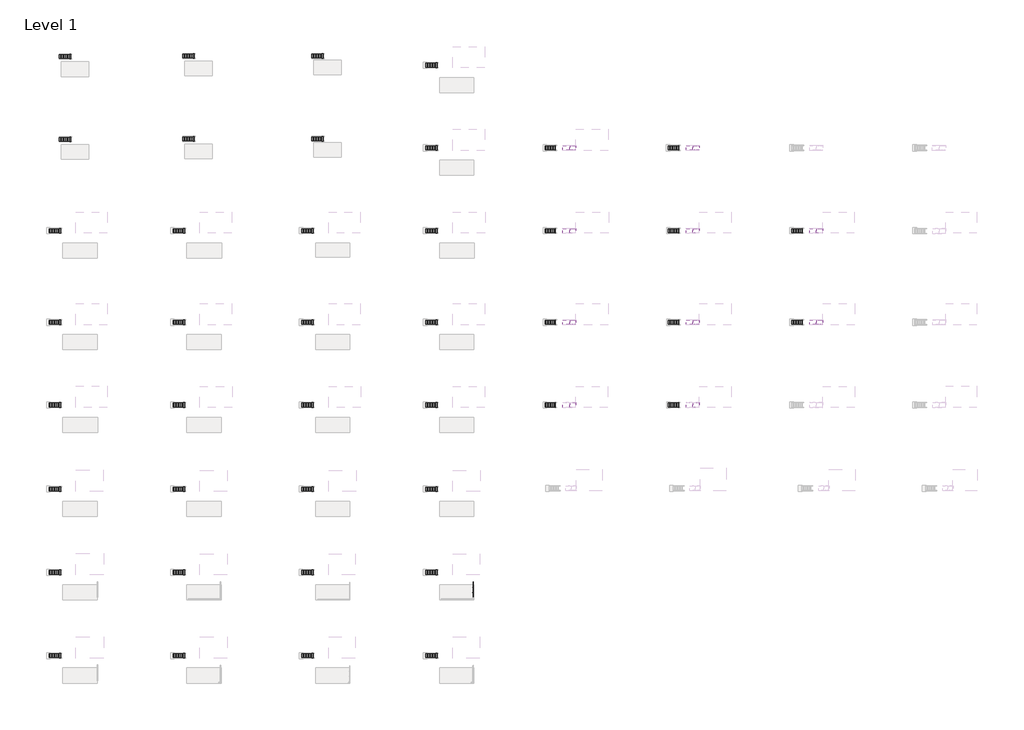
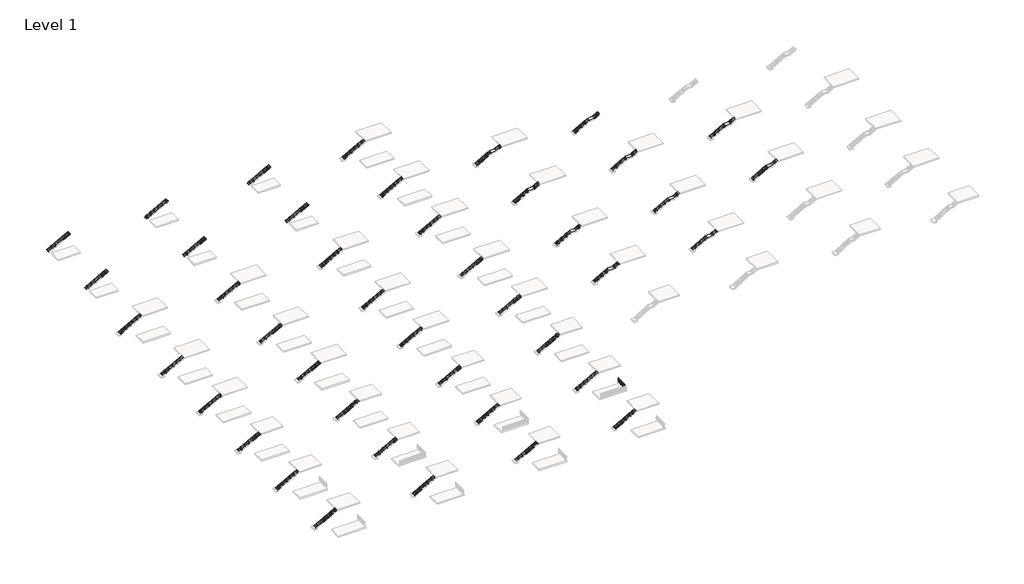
# One storey, part 18 of 21: 52 stair flights, 10 slabs, 1 railing.
"""IFC4 building model written with IfcOpenShell, lengths in millimetres."""

from ifc_helpers import new_model, si_unit, point, frame, frame_2d, origin, origin_with_axes, place, context, project, spatial, polyline, circle_curve, ellipse_curve, trimmed, segment, composite_curve, outline, extrude, transform, mapped, element, save
from ifc_brep_helpers import plane_surface, cylinder_surface, revolved_surface, advanced_brep
from components import non_monolithic_landing_68df8a4a, non_monolithic_landing_622c76ce, non_monolithic_landing_eebf8293, non_monolithic_landing_572fa811, non_monolithic_landing_1bac0f6f, non_monolithic_landing_00edb4bf, non_monolithic_landing_f2cff6cf, non_monolithic_landing_93eedf80, non_monolithic_landing_f9f2de40, non_monolithic_landing_677d5420, stair_flight_21dbc130, stair_flight_cde1ea60, stair_flight_880be68a, stair_flight_54c0e317, stair_flight_4c12d816, stair_flight_4dab80b4, stair_flight_5fd97676, stair_flight_d89cc62d, stair_flight_032d6450, stair_flight_6f00a75b, stair_flight_b4fc23ee, stair_flight_1a475ef1, stair_flight_504623b8, stair_flight_a9e391cd, stair_flight_ea38ce52, stair_flight_579046b4, stair_flight_a4d97b63, stair_flight_d66cefcb, stair_flight_59b35711, stair_flight_d6851f9f, stair_flight_cf73235f, stair_flight_5fa4b5d9, stair_flight_0c7f6dce, stair_flight_51c20a19, stair_flight_4c7bdb1a, stair_flight_e897e28c, stair_flight_97da3e8a, stair_flight_49c0e360, stair_flight_cca27561, stair_flight_1eaf134b, stair_flight_70ecf729, stair_flight_92419e0c, stair_flight_28026eea, stair_flight_2d9f9aa4, stair_flight_6e80d798, stair_flight_51f59bb7, stair_flight_48e1a564, stair_flight_d0af4276, stair_flight_f16808b1, stair_flight_94b45384, stair_flight_3adfad0a, stair_flight_d7e3c5c4, stair_flight_fb633825, stair_flight_e81d561a, stair_flight_54aec304, stair_flight_acb79ccf, stair_flight_84b26165, stair_flight_38fbb28f, stair_flight_65d056e7, stair_flight_d85fa086, stair_flight_746c074b, stair_flight_32618580

model = new_model("IFC4")

# Units and contexts
model_context = context("Model", 3, world=origin())
ifc_project = project(units=[si_unit("LENGTHUNIT", "METRE", prefix="MILLI")], contexts=[model_context])

# Site, building, storey
site = spatial("IfcSite", under=ifc_project)
building = spatial("IfcBuilding", under=site)
storey = spatial("IfcBuildingStorey", under=building, Name="Level 1", Elevation=0.0)

# Railing
placement = place(None, origin())
element("IfcRailing", 1, ObjectType="VIVA-CIRCA-Cable-Core Mount-Straight", at=placement, inside=storey, context=model_context, shape_type="SolidModel", body=[
    advanced_brep(
    [(69909.4592968, -56752.6334719, 1054.1), (69858.6592968, -56752.6334719, 1054.1), (69909.4592968, -53704.6334719, 1054.1), (69858.6592968, -53704.6334719, 1054.1), (69909.4592968, -53603.0334719, 1054.1), (69858.6592968, -53603.0334719, 1054.1)],
    [
        (0, 1, circle_curve(frame((69884.0592968, -56752.6334719, 1054.1), z_axis=(0.0, -1.0, 0.0), x_axis=(-1.0, 0.0, 0.0)), 25.4)),
        (1, 0, circle_curve(frame((69884.0592968, -56752.6334719, 1054.1), z_axis=(0.0, -1.0, 0.0), x_axis=(-1.0, 0.0, 0.0)), 25.4)),
        (0, 2),
        (2, 3, circle_curve(frame((69884.0592968, -53704.6334719, 1054.1), z_axis=(0.0, -1.0, 0.0), x_axis=(-1.0, 0.0, 0.0)), 25.4)),
        (3, 1),
        (3, 2, circle_curve(frame((69884.0592968, -53704.6334719, 1054.1), z_axis=(0.0, -1.0, 0.0), x_axis=(-1.0, 0.0, 0.0)), 25.4)),
        (4, 5, circle_curve(frame((69884.0592968, -53603.0334719, 1054.1), z_axis=(0.0, 1.0, 0.0), x_axis=(-1.0, 0.0, 0.0)), 25.4)),
        (5, 4, circle_curve(frame((69884.0592968, -53603.0334719, 1054.1), z_axis=(0.0, 1.0, 0.0), x_axis=(-1.0, 0.0, 0.0)), 25.4)),
        (2, 4),
        (5, 3),
    ],
    [
        plane_surface(frame((69884.0592968, -56752.6334719, 1079.5), z_axis=(0.0, -1.0, 0.0), x_axis=(0.0, 0.0, 1.0))),
        cylinder_surface(frame((69884.0592968, -56752.6334719, 1054.1), z_axis=(0.0, -1.0, 0.0), x_axis=(-1.0, 0.0, 0.0)), 25.4),
        plane_surface(frame((69884.0592968, -53603.0334719, 1079.5), z_axis=(0.0, 1.0, 0.0), x_axis=(0.0, 0.0, 1.0))),
        cylinder_surface(frame((69884.0592968, -53704.6334719, 1054.1), z_axis=(0.0, -1.0, 0.0), x_axis=(-1.0, 0.0, 0.0)), 25.4),
    ],
    [
        (0, [[1, 2]]),
        (1, [[-1, 3, 4, 5]]),
        (1, [[-2, -5, 6, -3]]),
        (2, [[7, 8]]),
        (3, [[-4, 9, -8, 10]]),
        (3, [[-6, -10, -7, -9]]),
    ],
),
    extrude(outline(composite_curve([segment(trimmed(circle_curve(frame_2d((937.4124, 69884.0592968)), 2.3876), [point((937.4124, 69881.6716968))], [point((937.4124, 69886.4468968))], False, "CARTESIAN"), True, "CONTINUOUS"), segment(trimmed(circle_curve(frame_2d((937.4124, 69884.0592968)), 2.3876), [point((937.4124, 69886.4468968))], [point((937.4124, 69881.6716968))], False, "CARTESIAN"), True, "CONTINUOUS")], self_intersect=False)), frame((0.0, -56752.6334719, 0.0), z_axis=(0.0, 1.0, 0.0), x_axis=(0.0, 0.0, 1.0)), (0.0, 0.0, 1.0), 3048.0),
    extrude(outline(composite_curve([segment(trimmed(circle_curve(frame_2d((854.8624, 69884.0592968)), 2.3876), [point((854.8624, 69881.6716968))], [point((854.8624, 69886.4468968))], False, "CARTESIAN"), True, "CONTINUOUS"), segment(trimmed(circle_curve(frame_2d((854.8624, 69884.0592968)), 2.3876), [point((854.8624, 69886.4468968))], [point((854.8624, 69881.6716968))], False, "CARTESIAN"), True, "CONTINUOUS")], self_intersect=False)), frame((0.0, -56752.6334719, 0.0), z_axis=(0.0, 1.0, 0.0), x_axis=(0.0, 0.0, 1.0)), (0.0, 0.0, 1.0), 3048.0),
    extrude(outline(composite_curve([segment(trimmed(circle_curve(frame_2d((772.3124, 69884.0592968)), 2.3876), [point((772.3124, 69881.6716968))], [point((772.3124, 69886.4468968))], False, "CARTESIAN"), True, "CONTINUOUS"), segment(trimmed(circle_curve(frame_2d((772.3124, 69884.0592968)), 2.3876), [point((772.3124, 69886.4468968))], [point((772.3124, 69881.6716968))], False, "CARTESIAN"), True, "CONTINUOUS")], self_intersect=False)), frame((0.0, -56752.6334719, 0.0), z_axis=(0.0, 1.0, 0.0), x_axis=(0.0, 0.0, 1.0)), (0.0, 0.0, 1.0), 3048.0),
    extrude(outline(composite_curve([segment(trimmed(circle_curve(frame_2d((689.7624, 69884.0592968)), 2.3876), [point((689.7624, 69881.6716968))], [point((689.7624, 69886.4468968))], False, "CARTESIAN"), True, "CONTINUOUS"), segment(trimmed(circle_curve(frame_2d((689.7624, 69884.0592968)), 2.3876), [point((689.7624, 69886.4468968))], [point((689.7624, 69881.6716968))], False, "CARTESIAN"), True, "CONTINUOUS")], self_intersect=False)), frame((0.0, -56752.6334719, 0.0), z_axis=(0.0, 1.0, 0.0), x_axis=(0.0, 0.0, 1.0)), (0.0, 0.0, 1.0), 3048.0),
    extrude(outline(composite_curve([segment(trimmed(circle_curve(frame_2d((607.2124, 69884.0592968)), 2.3876), [point((607.2124, 69881.6716968))], [point((607.2124, 69886.4468968))], False, "CARTESIAN"), True, "CONTINUOUS"), segment(trimmed(circle_curve(frame_2d((607.2124, 69884.0592968)), 2.3876), [point((607.2124, 69886.4468968))], [point((607.2124, 69881.6716968))], False, "CARTESIAN"), True, "CONTINUOUS")], self_intersect=False)), frame((0.0, -56752.6334719, 0.0), z_axis=(0.0, 1.0, 0.0), x_axis=(0.0, 0.0, 1.0)), (0.0, 0.0, 1.0), 3048.0),
    extrude(outline(composite_curve([segment(trimmed(circle_curve(frame_2d((524.6624, 69884.0592968)), 2.3876), [point((524.6624, 69881.6716968))], [point((524.6624, 69886.4468968))], False, "CARTESIAN"), True, "CONTINUOUS"), segment(trimmed(circle_curve(frame_2d((524.6624, 69884.0592968)), 2.3876), [point((524.6624, 69886.4468968))], [point((524.6624, 69881.6716968))], False, "CARTESIAN"), True, "CONTINUOUS")], self_intersect=False)), frame((0.0, -56752.6334719, 0.0), z_axis=(0.0, 1.0, 0.0), x_axis=(0.0, 0.0, 1.0)), (0.0, 0.0, 1.0), 3048.0),
    extrude(outline(composite_curve([segment(trimmed(circle_curve(frame_2d((442.1124, 69884.0592968)), 2.3876), [point((442.1124, 69881.6716968))], [point((442.1124, 69886.4468968))], False, "CARTESIAN"), True, "CONTINUOUS"), segment(trimmed(circle_curve(frame_2d((442.1124, 69884.0592968)), 2.3876), [point((442.1124, 69886.4468968))], [point((442.1124, 69881.6716968))], False, "CARTESIAN"), True, "CONTINUOUS")], self_intersect=False)), frame((0.0, -56752.6334719, 0.0), z_axis=(0.0, 1.0, 0.0), x_axis=(0.0, 0.0, 1.0)), (0.0, 0.0, 1.0), 3048.0),
    extrude(outline(composite_curve([segment(trimmed(circle_curve(frame_2d((359.5624, 69884.0592968)), 2.3876), [point((359.5624, 69881.6716968))], [point((359.5624, 69886.4468968))], False, "CARTESIAN"), True, "CONTINUOUS"), segment(trimmed(circle_curve(frame_2d((359.5624, 69884.0592968)), 2.3876), [point((359.5624, 69886.4468968))], [point((359.5624, 69881.6716968))], False, "CARTESIAN"), True, "CONTINUOUS")], self_intersect=False)), frame((0.0, -56752.6334719, 0.0), z_axis=(0.0, 1.0, 0.0), x_axis=(0.0, 0.0, 1.0)), (0.0, 0.0, 1.0), 3048.0),
    extrude(outline(composite_curve([segment(trimmed(circle_curve(frame_2d((277.0124, 69884.0592968)), 2.3876), [point((277.0124, 69881.6716968))], [point((277.0124, 69886.4468968))], False, "CARTESIAN"), True, "CONTINUOUS"), segment(trimmed(circle_curve(frame_2d((277.0124, 69884.0592968)), 2.3876), [point((277.0124, 69886.4468968))], [point((277.0124, 69881.6716968))], False, "CARTESIAN"), True, "CONTINUOUS")], self_intersect=False)), frame((0.0, -56752.6334719, 0.0), z_axis=(0.0, 1.0, 0.0), x_axis=(0.0, 0.0, 1.0)), (0.0, 0.0, 1.0), 3048.0),
    extrude(outline(composite_curve([segment(trimmed(circle_curve(frame_2d((194.4624, 69884.0592968)), 2.3876), [point((194.4624, 69881.6716968))], [point((194.4624, 69886.4468968))], False, "CARTESIAN"), True, "CONTINUOUS"), segment(trimmed(circle_curve(frame_2d((194.4624, 69884.0592968)), 2.3876), [point((194.4624, 69886.4468968))], [point((194.4624, 69881.6716968))], False, "CARTESIAN"), True, "CONTINUOUS")], self_intersect=False)), frame((0.0, -56752.6334719, 0.0), z_axis=(0.0, 1.0, 0.0), x_axis=(0.0, 0.0, 1.0)), (0.0, 0.0, 1.0), 3048.0),
    extrude(outline(composite_curve([segment(trimmed(circle_curve(frame_2d((111.9124, 69884.0592968)), 2.3876), [point((111.9124, 69881.6716968))], [point((111.9124, 69886.4468968))], False, "CARTESIAN"), True, "CONTINUOUS"), segment(trimmed(circle_curve(frame_2d((111.9124, 69884.0592968)), 2.3876), [point((111.9124, 69886.4468968))], [point((111.9124, 69881.6716968))], False, "CARTESIAN"), True, "CONTINUOUS")], self_intersect=False)), frame((0.0, -56752.6334719, 0.0), z_axis=(0.0, 1.0, 0.0), x_axis=(0.0, 0.0, 1.0)), (0.0, 0.0, 1.0), 3048.0),
    extrude(outline(composite_curve([segment(trimmed(circle_curve(frame_2d((69884.0592968, -54720.2365969)), 63.5), [point((69947.5592968, -54720.2365969))], [point((69820.5592968, -54720.2365969))], False, "CARTESIAN"), True, "CONTINUOUS"), segment(trimmed(circle_curve(frame_2d((69884.0592968, -54720.2365969)), 63.5), [point((69820.5592968, -54720.2365969))], [point((69947.5592968, -54720.2365969))], False, "CARTESIAN"), True, "CONTINUOUS")], self_intersect=False)), origin_with_axes(), (0.0, 0.0, 1.0), 25.4),
    extrude(outline(composite_curve([segment(trimmed(circle_curve(frame_2d((1055.4254922, 69883.9625684)), 25.4345159), [point((1033.3106679, 69896.5263713))], [point((1033.2157471, 69871.5673346))], True, "CARTESIAN"), True, "CONTINUOUS"), segment(trimmed(circle_curve(frame_2d((1030.7132623, 69870.3226815)), 2.7949225), [point((1033.2157471, 69871.5673346))], [point((1028.3406769, 69868.8453764))], False, "CARTESIAN"), True, "CONTINUOUS"), segment(trimmed(circle_curve(frame_2d((1056.1881188, 69884.0960315)), 31.75), [point((1028.3406769, 69868.8453764))], [point((1028.9214354, 69900.3622687))], False, "CARTESIAN"), True, "CONTINUOUS"), segment(trimmed(circle_curve(frame_2d((1030.7923545, 69898.073929)), 2.9558141), [point((1028.9214354, 69900.3622687))], [point((1033.3106679, 69896.5263713))], False, "CARTESIAN"), True, "CONTINUOUS")], self_intersect=False)), frame((0.0, -54765.4739969, 0.0), z_axis=(0.0, 1.0, 0.0), x_axis=(0.0, 0.0, 1.0)), (0.0, 0.0, 1.0), 90.4748),
    extrude(outline(composite_curve([segment(trimmed(circle_curve(frame_2d((-54693.168682, 1010.282776)), 14.3679149), [point((-54693.168682, 1024.6506908))], [point((-54707.5365969, 1010.282776))], True, "CARTESIAN"), True, "CONTINUOUS"), segment(trimmed(circle_curve(frame_2d((-54720.2365969, 1010.282776)), 12.7), [point((-54707.5365969, 1010.282776))], [point((-54732.9365969, 1010.282776))], False, "CARTESIAN"), True, "CONTINUOUS"), segment(trimmed(circle_curve(frame_2d((-54747.3045117, 1010.282776)), 14.3679149), [point((-54732.9365969, 1010.282776))], [point((-54747.3045117, 1024.6506908))], True, "CARTESIAN"), True, "CONTINUOUS"), segment(polyline([(-54747.3045117, 1024.6506908), (-54693.168682, 1024.6506908)]), True, "CONTINUOUS")], self_intersect=False)), frame((69881.5192968, 0.0, 0.0), z_axis=(1.0, 0.0, 0.0), x_axis=(0.0, 1.0, 0.0)), (0.0, 0.0, 1.0), 5.08),
    advanced_brep(
    [(69909.4586946, -54720.2365969, 941.1347854), (69858.659899, -54720.2365969, 941.1347854), (69858.659899, -54720.2365969, -88.9), (69909.4586946, -54720.2365969, -88.9), (69896.7972653, -54720.2365969, 979.3486202), (69871.3213282, -54720.2365969, 979.3486202), (69896.7972653, -54720.2365969, 1008.5779599), (69871.3213282, -54720.2365969, 1008.5779599), (69884.0592968, -54720.2365969, 1015.238668), (69884.0592968, -54720.2365969, -88.9)],
    [
        (0, 1, circle_curve(frame((69884.0592968, -54720.2365969, 941.1347854), z_axis=(0.0, 0.0, -1.0), x_axis=(-1.0, 0.0, 0.0)), 25.3993978)),
        (1, 2),
        (2, 3, circle_curve(frame((69884.0592968, -54720.2365969, -88.9), z_axis=(0.0, 0.0, 1.0), x_axis=(-1.0, 0.0, 0.0)), 25.3993978)),
        (3, 0),
        (1, 0, circle_curve(frame((69884.0592968, -54720.2365969, 941.1347854), z_axis=(0.0, 0.0, -1.0), x_axis=(-1.0, 0.0, 0.0)), 25.3993978)),
        (3, 2, circle_curve(frame((69884.0592968, -54720.2365969, -88.9), z_axis=(0.0, 0.0, 1.0), x_axis=(-1.0, 0.0, 0.0)), 25.3993978)),
        (4, 5, circle_curve(frame((69884.0592968, -54720.2365969, 979.3486202), z_axis=(0.0, 0.0, -1.0), x_axis=(-1.0, 0.0, 0.0)), 12.7379685)),
        (5, 1, circle_curve(frame((69807.3234599, -54720.2365969, 979.3486202), z_axis=(0.0, 1.0, 0.0), x_axis=(-1.0, 0.0, 0.0)), 63.9978683)),
        (0, 4, circle_curve(frame((69960.7951336, -54720.2365969, 979.3486202), z_axis=(0.0, 1.0, 0.0), x_axis=(1.0, 0.0, 0.0)), 63.9978683)),
        (5, 4, circle_curve(frame((69884.0592968, -54720.2365969, 979.3486202), z_axis=(0.0, 0.0, -1.0), x_axis=(-1.0, 0.0, 0.0)), 12.7379685)),
        (6, 7, circle_curve(frame((69884.0592968, -54720.2365969, 1008.5779599), z_axis=(0.0, 0.0, -1.0), x_axis=(-1.0, 0.0, 0.0)), 12.7379685)),
        (7, 5),
        (4, 6),
        (7, 6, circle_curve(frame((69884.0592968, -54720.2365969, 1008.5779599), z_axis=(0.0, 0.0, -1.0), x_axis=(-1.0, 0.0, 0.0)), 12.7379685)),
        (8, 7, circle_curve(frame((69884.0592968, -54720.2365969, 999.7282394), z_axis=(0.0, -1.0, 0.0), x_axis=(-1.0, 0.0, 0.0)), 15.5104286)),
        (6, 8, circle_curve(frame((69884.0592968, -54720.2365969, 999.7282394), z_axis=(0.0, -1.0, 0.0), x_axis=(1.0, 0.0, 0.0)), 15.5104286)),
        (2, 9),
        (9, 3),
    ],
    [
        cylinder_surface(frame((69884.0592968, -54720.2365969, 1104.9), z_axis=(0.0, 0.0, 1.0), x_axis=(-1.0, 0.0, 0.0)), 25.3993978),
        revolved_surface(trimmed(ellipse_curve(frame((69807.3234599, -54720.2365969, 979.3486202), z_axis=(0.0, -1.0, 0.0), x_axis=(-1.0, 0.0, 0.0)), 63.9978683, 63.9978683), [point((69858.659899, -54720.2365969, 941.1347854))], [point((69871.3213282, -54720.2365969, 979.3486202))], True, "CARTESIAN"), (69884.0592968, -54720.2365969, 1104.9), (0.0, 0.0, 1.0)),
        cylinder_surface(frame((69884.0592968, -54720.2365969, 1104.9), z_axis=(0.0, 0.0, 1.0), x_axis=(-1.0, 0.0, 0.0)), 12.7379685),
        revolved_surface(trimmed(ellipse_curve(frame((69884.0592968, -54720.2365969, 999.7282394), z_axis=(0.0, 1.0, 0.0), x_axis=(-1.0, 0.0, 0.0)), 15.5104286, 15.5104286), [point((69871.3213282, -54720.2365969, 1008.5779599))], [point((69884.0592968, -54720.2365969, 1015.238668))], True, "CARTESIAN"), (69884.0592968, -54720.2365969, 1104.9), (0.0, 0.0, 1.0)),
        plane_surface(frame((69884.0592968, -54720.2365969, -88.9), z_axis=(0.0, 0.0, -1.0), x_axis=(-1.0, 0.0, 0.0))),
    ],
    [
        (0, [[1, 2, 3, 4]]),
        (0, [[5, -4, 6, -2]]),
        (1, [[7, 8, -1, 9]]),
        (1, [[10, -9, -5, -8]]),
        (2, [[11, 12, -7, 13]]),
        (2, [[14, -13, -10, -12]]),
        (3, [[15, -11, 16]]),
        (3, [[-16, -14, -15]]),
        (4, [[-3, 17, 18]]),
        (4, [[-6, -18, -17]]),
    ],
),
    extrude(outline(composite_curve([segment(trimmed(circle_curve(frame_2d((69884.0592968, -55736.2365969)), 63.5), [point((69947.5592968, -55736.2365969))], [point((69820.5592968, -55736.2365969))], False, "CARTESIAN"), True, "CONTINUOUS"), segment(trimmed(circle_curve(frame_2d((69884.0592968, -55736.2365969)), 63.5), [point((69820.5592968, -55736.2365969))], [point((69947.5592968, -55736.2365969))], False, "CARTESIAN"), True, "CONTINUOUS")], self_intersect=False)), origin_with_axes(), (0.0, 0.0, 1.0), 25.4),
    extrude(outline(composite_curve([segment(trimmed(circle_curve(frame_2d((1055.4254922, 69883.9625684)), 25.4345159), [point((1033.3106679, 69896.5263713))], [point((1033.2157471, 69871.5673346))], True, "CARTESIAN"), True, "CONTINUOUS"), segment(trimmed(circle_curve(frame_2d((1030.7132623, 69870.3226815)), 2.7949225), [point((1033.2157471, 69871.5673346))], [point((1028.3406769, 69868.8453764))], False, "CARTESIAN"), True, "CONTINUOUS"), segment(trimmed(circle_curve(frame_2d((1056.1881188, 69884.0960315)), 31.75), [point((1028.3406769, 69868.8453764))], [point((1028.9214354, 69900.3622687))], False, "CARTESIAN"), True, "CONTINUOUS"), segment(trimmed(circle_curve(frame_2d((1030.7923545, 69898.073929)), 2.9558141), [point((1028.9214354, 69900.3622687))], [point((1033.3106679, 69896.5263713))], False, "CARTESIAN"), True, "CONTINUOUS")], self_intersect=False)), frame((0.0, -55781.4739969, 0.0), z_axis=(0.0, 1.0, 0.0), x_axis=(0.0, 0.0, 1.0)), (0.0, 0.0, 1.0), 90.4748),
    extrude(outline(composite_curve([segment(trimmed(circle_curve(frame_2d((-55709.168682, 1010.282776)), 14.3679149), [point((-55709.168682, 1024.6506908))], [point((-55723.5365969, 1010.282776))], True, "CARTESIAN"), True, "CONTINUOUS"), segment(trimmed(circle_curve(frame_2d((-55736.2365969, 1010.282776)), 12.7), [point((-55723.5365969, 1010.282776))], [point((-55748.9365969, 1010.282776))], False, "CARTESIAN"), True, "CONTINUOUS"), segment(trimmed(circle_curve(frame_2d((-55763.3045117, 1010.282776)), 14.3679149), [point((-55748.9365969, 1010.282776))], [point((-55763.3045117, 1024.6506908))], True, "CARTESIAN"), True, "CONTINUOUS"), segment(polyline([(-55763.3045117, 1024.6506908), (-55709.168682, 1024.6506908)]), True, "CONTINUOUS")], self_intersect=False)), frame((69881.5192968, 0.0, 0.0), z_axis=(1.0, 0.0, 0.0), x_axis=(0.0, 1.0, 0.0)), (0.0, 0.0, 1.0), 5.08),
    advanced_brep(
    [(69909.4586946, -55736.2365969, 941.1347854), (69858.659899, -55736.2365969, 941.1347854), (69858.659899, -55736.2365969, -88.9), (69909.4586946, -55736.2365969, -88.9), (69896.7972653, -55736.2365969, 979.3486202), (69871.3213282, -55736.2365969, 979.3486202), (69896.7972653, -55736.2365969, 1008.5779599), (69871.3213282, -55736.2365969, 1008.5779599), (69884.0592968, -55736.2365969, 1015.238668), (69884.0592968, -55736.2365969, -88.9)],
    [
        (0, 1, circle_curve(frame((69884.0592968, -55736.2365969, 941.1347854), z_axis=(0.0, 0.0, -1.0), x_axis=(-1.0, 0.0, 0.0)), 25.3993978)),
        (1, 2),
        (2, 3, circle_curve(frame((69884.0592968, -55736.2365969, -88.9), z_axis=(0.0, 0.0, 1.0), x_axis=(-1.0, 0.0, 0.0)), 25.3993978)),
        (3, 0),
        (1, 0, circle_curve(frame((69884.0592968, -55736.2365969, 941.1347854), z_axis=(0.0, 0.0, -1.0), x_axis=(-1.0, 0.0, 0.0)), 25.3993978)),
        (3, 2, circle_curve(frame((69884.0592968, -55736.2365969, -88.9), z_axis=(0.0, 0.0, 1.0), x_axis=(-1.0, 0.0, 0.0)), 25.3993978)),
        (4, 5, circle_curve(frame((69884.0592968, -55736.2365969, 979.3486202), z_axis=(0.0, 0.0, -1.0), x_axis=(-1.0, 0.0, 0.0)), 12.7379685)),
        (5, 1, circle_curve(frame((69807.3234599, -55736.2365969, 979.3486202), z_axis=(0.0, 1.0, 0.0), x_axis=(-1.0, 0.0, 0.0)), 63.9978683)),
        (0, 4, circle_curve(frame((69960.7951336, -55736.2365969, 979.3486202), z_axis=(0.0, 1.0, 0.0), x_axis=(1.0, 0.0, 0.0)), 63.9978683)),
        (5, 4, circle_curve(frame((69884.0592968, -55736.2365969, 979.3486202), z_axis=(0.0, 0.0, -1.0), x_axis=(-1.0, 0.0, 0.0)), 12.7379685)),
        (6, 7, circle_curve(frame((69884.0592968, -55736.2365969, 1008.5779599), z_axis=(0.0, 0.0, -1.0), x_axis=(-1.0, 0.0, 0.0)), 12.7379685)),
        (7, 5),
        (4, 6),
        (7, 6, circle_curve(frame((69884.0592968, -55736.2365969, 1008.5779599), z_axis=(0.0, 0.0, -1.0), x_axis=(-1.0, 0.0, 0.0)), 12.7379685)),
        (8, 7, circle_curve(frame((69884.0592968, -55736.2365969, 999.7282394), z_axis=(0.0, -1.0, 0.0), x_axis=(-1.0, 0.0, 0.0)), 15.5104286)),
        (6, 8, circle_curve(frame((69884.0592968, -55736.2365969, 999.7282394), z_axis=(0.0, -1.0, 0.0), x_axis=(1.0, 0.0, 0.0)), 15.5104286)),
        (2, 9),
        (9, 3),
    ],
    [
        cylinder_surface(frame((69884.0592968, -55736.2365969, 1104.9), z_axis=(0.0, 0.0, 1.0), x_axis=(-1.0, 0.0, 0.0)), 25.3993978),
        revolved_surface(trimmed(ellipse_curve(frame((69807.3234599, -55736.2365969, 979.3486202), z_axis=(0.0, -1.0, 0.0), x_axis=(-1.0, 0.0, 0.0)), 63.9978683, 63.9978683), [point((69858.659899, -55736.2365969, 941.1347854))], [point((69871.3213282, -55736.2365969, 979.3486202))], True, "CARTESIAN"), (69884.0592968, -55736.2365969, 1104.9), (0.0, 0.0, 1.0)),
        cylinder_surface(frame((69884.0592968, -55736.2365969, 1104.9), z_axis=(0.0, 0.0, 1.0), x_axis=(-1.0, 0.0, 0.0)), 12.7379685),
        revolved_surface(trimmed(ellipse_curve(frame((69884.0592968, -55736.2365969, 999.7282394), z_axis=(0.0, 1.0, 0.0), x_axis=(-1.0, 0.0, 0.0)), 15.5104286, 15.5104286), [point((69871.3213282, -55736.2365969, 1008.5779599))], [point((69884.0592968, -55736.2365969, 1015.238668))], True, "CARTESIAN"), (69884.0592968, -55736.2365969, 1104.9), (0.0, 0.0, 1.0)),
        plane_surface(frame((69884.0592968, -55736.2365969, -88.9), z_axis=(0.0, 0.0, -1.0), x_axis=(-1.0, 0.0, 0.0))),
    ],
    [
        (0, [[1, 2, 3, 4]]),
        (0, [[5, -4, 6, -2]]),
        (1, [[7, 8, -1, 9]]),
        (1, [[10, -9, -5, -8]]),
        (2, [[11, 12, -7, 13]]),
        (2, [[14, -13, -10, -12]]),
        (3, [[15, -11, 16]]),
        (3, [[-16, -14, -15]]),
        (4, [[-3, 17, 18]]),
        (4, [[-6, -18, -17]]),
    ],
),
])

# Slabs
non_monolithic_landing_shape = non_monolithic_landing_68df8a4a(model_context)
element("IfcSlab", 2, ObjectType="Non-Monolithic Landing", at=placement, inside=storey, context=model_context, shape_type="MappedRepresentation", body=[
    mapped(non_monolithic_landing_shape, transform((0.0, 0.0, 0.0), x_axis=(1.0, 0.0, 0.0), y_axis=(0.0, 1.0, 0.0), z_axis=(0.0, 0.0, 1.0))),
])
non_monolithic_landing_2_shape = non_monolithic_landing_622c76ce(model_context)
element("IfcSlab", 3, ObjectType="Non-Monolithic Landing", at=placement, inside=storey, context=model_context, shape_type="MappedRepresentation", body=[
    mapped(non_monolithic_landing_2_shape, transform((0.0, 0.0, 0.0), x_axis=(1.0, 0.0, 0.0), y_axis=(0.0, 1.0, 0.0), z_axis=(0.0, 0.0, 1.0))),
])
non_monolithic_landing_3_shape = non_monolithic_landing_eebf8293(model_context)
element("IfcSlab", 4, ObjectType="Non-Monolithic Landing", at=placement, inside=storey, context=model_context, shape_type="MappedRepresentation", body=[
    mapped(non_monolithic_landing_3_shape, transform((0.0, 0.0, 0.0), x_axis=(1.0, 0.0, 0.0), y_axis=(0.0, 1.0, 0.0), z_axis=(0.0, 0.0, 1.0))),
])
non_monolithic_landing_4_shape = non_monolithic_landing_572fa811(model_context)
element("IfcSlab", 5, ObjectType="Non-Monolithic Landing", at=placement, inside=storey, context=model_context, shape_type="MappedRepresentation", body=[
    mapped(non_monolithic_landing_4_shape, transform((0.0, 0.0, 0.0), x_axis=(1.0, 0.0, 0.0), y_axis=(0.0, 1.0, 0.0), z_axis=(0.0, 0.0, 1.0))),
])
non_monolithic_landing_5_shape = non_monolithic_landing_1bac0f6f(model_context)
element("IfcSlab", 6, ObjectType="Non-Monolithic Landing", at=placement, inside=storey, context=model_context, shape_type="MappedRepresentation", body=[
    mapped(non_monolithic_landing_5_shape, transform((0.0, 0.0, 0.0), x_axis=(1.0, 0.0, 0.0), y_axis=(0.0, 1.0, 0.0), z_axis=(0.0, 0.0, 1.0))),
])
non_monolithic_landing_6_shape = non_monolithic_landing_00edb4bf(model_context)
element("IfcSlab", 7, ObjectType="Non-Monolithic Landing", at=placement, inside=storey, context=model_context, shape_type="MappedRepresentation", body=[
    mapped(non_monolithic_landing_6_shape, transform((0.0, 0.0, 0.0), x_axis=(1.0, 0.0, 0.0), y_axis=(0.0, 1.0, 0.0), z_axis=(0.0, 0.0, 1.0))),
])
non_monolithic_landing_7_shape = non_monolithic_landing_f2cff6cf(model_context)
element("IfcSlab", 8, ObjectType="Non-Monolithic Landing", at=placement, inside=storey, context=model_context, shape_type="MappedRepresentation", body=[
    mapped(non_monolithic_landing_7_shape, transform((0.0, 0.0, 0.0), x_axis=(1.0, 0.0, 0.0), y_axis=(0.0, 1.0, 0.0), z_axis=(0.0, 0.0, 1.0))),
])
non_monolithic_landing_8_shape = non_monolithic_landing_93eedf80(model_context)
element("IfcSlab", 9, ObjectType="Non-Monolithic Landing", at=placement, inside=storey, context=model_context, shape_type="MappedRepresentation", body=[
    mapped(non_monolithic_landing_8_shape, transform((0.0, 0.0, 0.0), x_axis=(1.0, 0.0, 0.0), y_axis=(0.0, 1.0, 0.0), z_axis=(0.0, 0.0, 1.0))),
])
non_monolithic_landing_9_shape = non_monolithic_landing_f9f2de40(model_context)
element("IfcSlab", 10, ObjectType="Non-Monolithic Landing", at=placement, inside=storey, context=model_context, shape_type="MappedRepresentation", body=[
    mapped(non_monolithic_landing_9_shape, transform((0.0, 0.0, 0.0), x_axis=(1.0, 0.0, 0.0), y_axis=(0.0, 1.0, 0.0), z_axis=(0.0, 0.0, 1.0))),
])
non_monolithic_landing_10_shape = non_monolithic_landing_677d5420(model_context)
element("IfcSlab", 11, ObjectType="Non-Monolithic Landing", at=placement, inside=storey, context=model_context, shape_type="MappedRepresentation", body=[
    mapped(non_monolithic_landing_10_shape, transform((0.0, 0.0, 0.0), x_axis=(1.0, 0.0, 0.0), y_axis=(0.0, 1.0, 0.0), z_axis=(0.0, 0.0, 1.0))),
])

# Stair flights
stair_flight_shape = stair_flight_21dbc130(model_context)
element("IfcStairFlight", 12, ObjectType="2\" Tread 1/4\" Riser", at=placement, inside=storey, context=model_context, shape_type="MappedRepresentation", body=[
    mapped(stair_flight_shape, transform((0.0, 0.0, 0.0), x_axis=(1.0, 0.0, 0.0), y_axis=(0.0, 1.0, 0.0), z_axis=(0.0, 0.0, 1.0))),
])
stair_flight_2_shape = stair_flight_cde1ea60(model_context)
element("IfcStairFlight", 13, ObjectType="2\" Tread 1/4\" Riser", at=placement, inside=storey, context=model_context, shape_type="MappedRepresentation", body=[
    mapped(stair_flight_2_shape, transform((0.0, 0.0, 0.0), x_axis=(1.0, 0.0, 0.0), y_axis=(0.0, 1.0, 0.0), z_axis=(0.0, 0.0, 1.0))),
])
stair_flight_3_shape = stair_flight_880be68a(model_context)
element("IfcStairFlight", 14, ObjectType="2\" Tread 1/4\" Riser", at=placement, inside=storey, context=model_context, shape_type="MappedRepresentation", body=[
    mapped(stair_flight_3_shape, transform((0.0, 0.0, 0.0), x_axis=(1.0, 0.0, 0.0), y_axis=(0.0, 1.0, 0.0), z_axis=(0.0, 0.0, 1.0))),
])
stair_flight_4_shape = stair_flight_54c0e317(model_context)
element("IfcStairFlight", 15, ObjectType="2\" Tread 1/4\" Riser", at=placement, inside=storey, context=model_context, shape_type="MappedRepresentation", body=[
    mapped(stair_flight_4_shape, transform((0.0, 0.0, 0.0), x_axis=(1.0, 0.0, 0.0), y_axis=(0.0, 1.0, 0.0), z_axis=(0.0, 0.0, 1.0))),
])
stair_flight_5_shape = stair_flight_4c12d816(model_context)
element("IfcStairFlight", 16, ObjectType="2\" Tread 1/4\" Riser", at=placement, inside=storey, context=model_context, shape_type="MappedRepresentation", body=[
    mapped(stair_flight_5_shape, transform((0.0, 0.0, 0.0), x_axis=(1.0, 0.0, 0.0), y_axis=(0.0, 1.0, 0.0), z_axis=(0.0, 0.0, 1.0))),
])
stair_flight_6_shape = stair_flight_4dab80b4(model_context)
element("IfcStairFlight", 17, ObjectType="2\" Tread 1/4\" Riser", at=placement, inside=storey, context=model_context, shape_type="MappedRepresentation", body=[
    mapped(stair_flight_6_shape, transform((0.0, 0.0, 0.0), x_axis=(1.0, 0.0, 0.0), y_axis=(0.0, 1.0, 0.0), z_axis=(0.0, 0.0, 1.0))),
])
stair_flight_7_shape = stair_flight_5fd97676(model_context)
element("IfcStairFlight", 18, ObjectType="2\" Tread 1/4\" Riser", at=placement, inside=storey, context=model_context, shape_type="MappedRepresentation", body=[
    mapped(stair_flight_7_shape, transform((0.0, 0.0, 0.0), x_axis=(1.0, 0.0, 0.0), y_axis=(0.0, 1.0, 0.0), z_axis=(0.0, 0.0, 1.0))),
])
stair_flight_8_shape = stair_flight_d89cc62d(model_context)
element("IfcStairFlight", 19, ObjectType="2\" Tread 1/4\" Riser", at=placement, inside=storey, context=model_context, shape_type="MappedRepresentation", body=[
    mapped(stair_flight_8_shape, transform((0.0, 0.0, 0.0), x_axis=(1.0, 0.0, 0.0), y_axis=(0.0, 1.0, 0.0), z_axis=(0.0, 0.0, 1.0))),
])
stair_flight_9_shape = stair_flight_032d6450(model_context)
element("IfcStairFlight", 20, ObjectType="2\" Tread 1/4\" Riser", at=placement, inside=storey, context=model_context, shape_type="MappedRepresentation", body=[
    mapped(stair_flight_9_shape, transform((0.0, 0.0, 0.0), x_axis=(1.0, 0.0, 0.0), y_axis=(0.0, 1.0, 0.0), z_axis=(0.0, 0.0, 1.0))),
])
stair_flight_10_shape = stair_flight_6f00a75b(model_context)
element("IfcStairFlight", 21, ObjectType="2\" Tread 1/4\" Riser", at=placement, inside=storey, context=model_context, shape_type="MappedRepresentation", body=[
    mapped(stair_flight_10_shape, transform((0.0, 0.0, 0.0), x_axis=(1.0, 0.0, 0.0), y_axis=(0.0, 1.0, 0.0), z_axis=(0.0, 0.0, 1.0))),
])
stair_flight_11_shape = stair_flight_b4fc23ee(model_context)
element("IfcStairFlight", 22, ObjectType="2\" Tread 1/4\" Riser", at=placement, inside=storey, context=model_context, shape_type="MappedRepresentation", body=[
    mapped(stair_flight_11_shape, transform((0.0, 0.0, 0.0), x_axis=(1.0, 0.0, 0.0), y_axis=(0.0, 1.0, 0.0), z_axis=(0.0, 0.0, 1.0))),
])
stair_flight_12_shape = stair_flight_1a475ef1(model_context)
element("IfcStairFlight", 23, ObjectType="2\" Tread 1/4\" Riser", at=placement, inside=storey, context=model_context, shape_type="MappedRepresentation", body=[
    mapped(stair_flight_12_shape, transform((0.0, 0.0, 0.0), x_axis=(1.0, 0.0, 0.0), y_axis=(0.0, 1.0, 0.0), z_axis=(0.0, 0.0, 1.0))),
])
stair_flight_13_shape = stair_flight_504623b8(model_context)
element("IfcStairFlight", 24, ObjectType="2\" Tread 1/4\" Riser", at=placement, inside=storey, context=model_context, shape_type="MappedRepresentation", body=[
    mapped(stair_flight_13_shape, transform((0.0, 0.0, 0.0), x_axis=(1.0, 0.0, 0.0), y_axis=(0.0, 1.0, 0.0), z_axis=(0.0, 0.0, 1.0))),
])
stair_flight_14_shape = stair_flight_a9e391cd(model_context)
element("IfcStairFlight", 25, ObjectType="2\" Tread 1/4\" Riser", at=placement, inside=storey, context=model_context, shape_type="MappedRepresentation", body=[
    mapped(stair_flight_14_shape, transform((0.0, 0.0, 0.0), x_axis=(1.0, 0.0, 0.0), y_axis=(0.0, 1.0, 0.0), z_axis=(0.0, 0.0, 1.0))),
])
stair_flight_15_shape = stair_flight_ea38ce52(model_context)
element("IfcStairFlight", 26, ObjectType="2\" Tread 1/4\" Riser", at=placement, inside=storey, context=model_context, shape_type="MappedRepresentation", body=[
    mapped(stair_flight_15_shape, transform((0.0, 0.0, 0.0), x_axis=(1.0, 0.0, 0.0), y_axis=(0.0, 1.0, 0.0), z_axis=(0.0, 0.0, 1.0))),
])
stair_flight_16_shape = stair_flight_579046b4(model_context)
element("IfcStairFlight", 27, ObjectType="2\" Tread 1/4\" Riser", at=placement, inside=storey, context=model_context, shape_type="MappedRepresentation", body=[
    mapped(stair_flight_16_shape, transform((0.0, 0.0, 0.0), x_axis=(1.0, 0.0, 0.0), y_axis=(0.0, 1.0, 0.0), z_axis=(0.0, 0.0, 1.0))),
])
stair_flight_17_shape = stair_flight_a4d97b63(model_context)
element("IfcStairFlight", 28, ObjectType="2\" Tread 1/4\" Riser", at=placement, inside=storey, context=model_context, shape_type="MappedRepresentation", body=[
    mapped(stair_flight_17_shape, transform((0.0, 0.0, 0.0), x_axis=(1.0, 0.0, 0.0), y_axis=(0.0, 1.0, 0.0), z_axis=(0.0, 0.0, 1.0))),
])
stair_flight_18_shape = stair_flight_d66cefcb(model_context)
element("IfcStairFlight", 29, ObjectType="2\" Tread 1/4\" Riser", at=placement, inside=storey, context=model_context, shape_type="MappedRepresentation", body=[
    mapped(stair_flight_18_shape, transform((0.0, 0.0, 0.0), x_axis=(1.0, 0.0, 0.0), y_axis=(0.0, 1.0, 0.0), z_axis=(0.0, 0.0, 1.0))),
])
stair_flight_19_shape = stair_flight_59b35711(model_context)
element("IfcStairFlight", 30, ObjectType="2\" Tread 1/4\" Riser", at=placement, inside=storey, context=model_context, shape_type="MappedRepresentation", body=[
    mapped(stair_flight_19_shape, transform((0.0, 0.0, 0.0), x_axis=(1.0, 0.0, 0.0), y_axis=(0.0, 1.0, 0.0), z_axis=(0.0, 0.0, 1.0))),
])
stair_flight_20_shape = stair_flight_d6851f9f(model_context)
element("IfcStairFlight", 31, ObjectType="2\" Tread 1/4\" Riser", at=placement, inside=storey, context=model_context, shape_type="MappedRepresentation", body=[
    mapped(stair_flight_20_shape, transform((0.0, 0.0, 0.0), x_axis=(1.0, 0.0, 0.0), y_axis=(0.0, 1.0, 0.0), z_axis=(0.0, 0.0, 1.0))),
])
stair_flight_21_shape = stair_flight_cf73235f(model_context)
element("IfcStairFlight", 32, ObjectType="2\" Tread 1/4\" Riser", at=placement, inside=storey, context=model_context, shape_type="MappedRepresentation", body=[
    mapped(stair_flight_21_shape, transform((0.0, 0.0, 0.0), x_axis=(1.0, 0.0, 0.0), y_axis=(0.0, 1.0, 0.0), z_axis=(0.0, 0.0, 1.0))),
])
stair_flight_22_shape = stair_flight_5fa4b5d9(model_context)
element("IfcStairFlight", 33, ObjectType="2\" Tread 1/4\" Riser", at=placement, inside=storey, context=model_context, shape_type="MappedRepresentation", body=[
    mapped(stair_flight_22_shape, transform((0.0, 0.0, 0.0), x_axis=(1.0, 0.0, 0.0), y_axis=(0.0, 1.0, 0.0), z_axis=(0.0, 0.0, 1.0))),
])
stair_flight_23_shape = stair_flight_0c7f6dce(model_context)
element("IfcStairFlight", 34, ObjectType="2\" Tread 1/4\" Riser", at=placement, inside=storey, context=model_context, shape_type="MappedRepresentation", body=[
    mapped(stair_flight_23_shape, transform((0.0, 0.0, 0.0), x_axis=(1.0, 0.0, 0.0), y_axis=(0.0, 1.0, 0.0), z_axis=(0.0, 0.0, 1.0))),
])
stair_flight_24_shape = stair_flight_51c20a19(model_context)
element("IfcStairFlight", 35, ObjectType="2\" Tread 1/4\" Riser", at=placement, inside=storey, context=model_context, shape_type="MappedRepresentation", body=[
    mapped(stair_flight_24_shape, transform((0.0, 0.0, 0.0), x_axis=(1.0, 0.0, 0.0), y_axis=(0.0, 1.0, 0.0), z_axis=(0.0, 0.0, 1.0))),
])
stair_flight_25_shape = stair_flight_4c7bdb1a(model_context)
element("IfcStairFlight", 36, ObjectType="2\" Tread 1/4\" Riser", at=placement, inside=storey, context=model_context, shape_type="MappedRepresentation", body=[
    mapped(stair_flight_25_shape, transform((0.0, 0.0, 0.0), x_axis=(1.0, 0.0, 0.0), y_axis=(0.0, 1.0, 0.0), z_axis=(0.0, 0.0, 1.0))),
])
stair_flight_26_shape = stair_flight_e897e28c(model_context)
element("IfcStairFlight", 37, ObjectType="2\" Tread 1/4\" Riser", at=placement, inside=storey, context=model_context, shape_type="MappedRepresentation", body=[
    mapped(stair_flight_26_shape, transform((0.0, 0.0, 0.0), x_axis=(1.0, 0.0, 0.0), y_axis=(0.0, 1.0, 0.0), z_axis=(0.0, 0.0, 1.0))),
])
stair_flight_27_shape = stair_flight_97da3e8a(model_context)
element("IfcStairFlight", 38, ObjectType="2\" Tread 1/4\" Riser", at=placement, inside=storey, context=model_context, shape_type="MappedRepresentation", body=[
    mapped(stair_flight_27_shape, transform((0.0, 0.0, 0.0), x_axis=(1.0, 0.0, 0.0), y_axis=(0.0, 1.0, 0.0), z_axis=(0.0, 0.0, 1.0))),
])
stair_flight_28_shape = stair_flight_49c0e360(model_context)
element("IfcStairFlight", 39, ObjectType="2\" Tread 1/4\" Riser", at=placement, inside=storey, context=model_context, shape_type="MappedRepresentation", body=[
    mapped(stair_flight_28_shape, transform((0.0, 0.0, 0.0), x_axis=(1.0, 0.0, 0.0), y_axis=(0.0, 1.0, 0.0), z_axis=(0.0, 0.0, 1.0))),
])
stair_flight_29_shape = stair_flight_cca27561(model_context)
element("IfcStairFlight", 40, ObjectType="2\" Tread 1/4\" Riser", at=placement, inside=storey, context=model_context, shape_type="MappedRepresentation", body=[
    mapped(stair_flight_29_shape, transform((0.0, 0.0, 0.0), x_axis=(1.0, 0.0, 0.0), y_axis=(0.0, 1.0, 0.0), z_axis=(0.0, 0.0, 1.0))),
])
stair_flight_30_shape = stair_flight_1eaf134b(model_context)
element("IfcStairFlight", 41, ObjectType="2\" Tread 1/4\" Riser", at=placement, inside=storey, context=model_context, shape_type="MappedRepresentation", body=[
    mapped(stair_flight_30_shape, transform((0.0, 0.0, 0.0), x_axis=(1.0, 0.0, 0.0), y_axis=(0.0, 1.0, 0.0), z_axis=(0.0, 0.0, 1.0))),
])
stair_flight_31_shape = stair_flight_70ecf729(model_context)
element("IfcStairFlight", 42, ObjectType="2\" Tread 1/4\" Riser", at=placement, inside=storey, context=model_context, shape_type="MappedRepresentation", body=[
    mapped(stair_flight_31_shape, transform((0.0, 0.0, 0.0), x_axis=(1.0, 0.0, 0.0), y_axis=(0.0, 1.0, 0.0), z_axis=(0.0, 0.0, 1.0))),
])
stair_flight_32_shape = stair_flight_92419e0c(model_context)
element("IfcStairFlight", 43, ObjectType="2\" Tread 1/4\" Riser", at=placement, inside=storey, context=model_context, shape_type="MappedRepresentation", body=[
    mapped(stair_flight_32_shape, transform((0.0, 0.0, 0.0), x_axis=(1.0, 0.0, 0.0), y_axis=(0.0, 1.0, 0.0), z_axis=(0.0, 0.0, 1.0))),
])
stair_flight_33_shape = stair_flight_28026eea(model_context)
element("IfcStairFlight", 44, ObjectType="2\" Tread 1/4\" Riser", at=placement, inside=storey, context=model_context, shape_type="MappedRepresentation", body=[
    mapped(stair_flight_33_shape, transform((0.0, 0.0, 0.0), x_axis=(1.0, 0.0, 0.0), y_axis=(0.0, 1.0, 0.0), z_axis=(0.0, 0.0, 1.0))),
])
stair_flight_34_shape = stair_flight_2d9f9aa4(model_context)
element("IfcStairFlight", 45, ObjectType="2\" Tread 1/4\" Riser", at=placement, inside=storey, context=model_context, shape_type="MappedRepresentation", body=[
    mapped(stair_flight_34_shape, transform((0.0, 0.0, 0.0), x_axis=(1.0, 0.0, 0.0), y_axis=(0.0, 1.0, 0.0), z_axis=(0.0, 0.0, 1.0))),
])
stair_flight_35_shape = stair_flight_6e80d798(model_context)
element("IfcStairFlight", 46, ObjectType="2\" Tread 1/4\" Riser", at=placement, inside=storey, context=model_context, shape_type="MappedRepresentation", body=[
    mapped(stair_flight_35_shape, transform((0.0, 0.0, 0.0), x_axis=(1.0, 0.0, 0.0), y_axis=(0.0, 1.0, 0.0), z_axis=(0.0, 0.0, 1.0))),
])
stair_flight_36_shape = stair_flight_51f59bb7(model_context)
element("IfcStairFlight", 47, ObjectType="2\" Tread 1/4\" Riser", at=placement, inside=storey, context=model_context, shape_type="MappedRepresentation", body=[
    mapped(stair_flight_36_shape, transform((0.0, 0.0, 0.0), x_axis=(1.0, 0.0, 0.0), y_axis=(0.0, 1.0, 0.0), z_axis=(0.0, 0.0, 1.0))),
])
stair_flight_37_shape = stair_flight_48e1a564(model_context)
element("IfcStairFlight", 48, ObjectType="2\" Tread 1/4\" Riser", at=placement, inside=storey, context=model_context, shape_type="MappedRepresentation", body=[
    mapped(stair_flight_37_shape, transform((0.0, 0.0, 0.0), x_axis=(1.0, 0.0, 0.0), y_axis=(0.0, 1.0, 0.0), z_axis=(0.0, 0.0, 1.0))),
])
stair_flight_38_shape = stair_flight_d0af4276(model_context)
element("IfcStairFlight", 49, ObjectType="2\" Tread 1/4\" Riser", at=placement, inside=storey, context=model_context, shape_type="MappedRepresentation", body=[
    mapped(stair_flight_38_shape, transform((0.0, 0.0, 0.0), x_axis=(1.0, 0.0, 0.0), y_axis=(0.0, 1.0, 0.0), z_axis=(0.0, 0.0, 1.0))),
])
stair_flight_39_shape = stair_flight_f16808b1(model_context)
element("IfcStairFlight", 50, ObjectType="2\" Tread 1/4\" Riser", at=placement, inside=storey, context=model_context, shape_type="MappedRepresentation", body=[
    mapped(stair_flight_39_shape, transform((0.0, 0.0, 0.0), x_axis=(1.0, 0.0, 0.0), y_axis=(0.0, 1.0, 0.0), z_axis=(0.0, 0.0, 1.0))),
])
stair_flight_40_shape = stair_flight_94b45384(model_context)
element("IfcStairFlight", 51, ObjectType="2\" Tread 1/4\" Riser", at=placement, inside=storey, context=model_context, shape_type="MappedRepresentation", body=[
    mapped(stair_flight_40_shape, transform((0.0, 0.0, 0.0), x_axis=(1.0, 0.0, 0.0), y_axis=(0.0, 1.0, 0.0), z_axis=(0.0, 0.0, 1.0))),
])
stair_flight_41_shape = stair_flight_3adfad0a(model_context)
element("IfcStairFlight", 52, ObjectType="2\" Tread 1/4\" Riser", at=placement, inside=storey, context=model_context, shape_type="MappedRepresentation", body=[
    mapped(stair_flight_41_shape, transform((0.0, 0.0, 0.0), x_axis=(1.0, 0.0, 0.0), y_axis=(0.0, 1.0, 0.0), z_axis=(0.0, 0.0, 1.0))),
])
stair_flight_42_shape = stair_flight_d7e3c5c4(model_context)
element("IfcStairFlight", 53, ObjectType="2\" Tread 1/4\" Riser", at=placement, inside=storey, context=model_context, shape_type="MappedRepresentation", body=[
    mapped(stair_flight_42_shape, transform((0.0, 0.0, 0.0), x_axis=(1.0, 0.0, 0.0), y_axis=(0.0, 1.0, 0.0), z_axis=(0.0, 0.0, 1.0))),
])
stair_flight_43_shape = stair_flight_fb633825(model_context)
element("IfcStairFlight", 54, ObjectType="2\" Tread 1/4\" Riser", at=placement, inside=storey, context=model_context, shape_type="MappedRepresentation", body=[
    mapped(stair_flight_43_shape, transform((0.0, 0.0, 0.0), x_axis=(1.0, 0.0, 0.0), y_axis=(0.0, 1.0, 0.0), z_axis=(0.0, 0.0, 1.0))),
])
stair_flight_44_shape = stair_flight_e81d561a(model_context)
element("IfcStairFlight", 55, ObjectType="2\" Tread 1/4\" Riser", at=placement, inside=storey, context=model_context, shape_type="MappedRepresentation", body=[
    mapped(stair_flight_44_shape, transform((0.0, 0.0, 0.0), x_axis=(1.0, 0.0, 0.0), y_axis=(0.0, 1.0, 0.0), z_axis=(0.0, 0.0, 1.0))),
])
stair_flight_45_shape = stair_flight_54aec304(model_context)
element("IfcStairFlight", 56, ObjectType="2\" Tread 1/4\" Riser", at=placement, inside=storey, context=model_context, shape_type="MappedRepresentation", body=[
    mapped(stair_flight_45_shape, transform((0.0, 0.0, 0.0), x_axis=(1.0, 0.0, 0.0), y_axis=(0.0, 1.0, 0.0), z_axis=(0.0, 0.0, 1.0))),
])
stair_flight_46_shape = stair_flight_acb79ccf(model_context)
element("IfcStairFlight", 57, ObjectType="2\" Tread 1/4\" Riser", at=placement, inside=storey, context=model_context, shape_type="MappedRepresentation", body=[
    mapped(stair_flight_46_shape, transform((0.0, 0.0, 0.0), x_axis=(1.0, 0.0, 0.0), y_axis=(0.0, 1.0, 0.0), z_axis=(0.0, 0.0, 1.0))),
])
stair_flight_47_shape = stair_flight_84b26165(model_context)
element("IfcStairFlight", 58, ObjectType="2\" Tread 1/4\" Riser", at=placement, inside=storey, context=model_context, shape_type="MappedRepresentation", body=[
    mapped(stair_flight_47_shape, transform((0.0, 0.0, 0.0), x_axis=(1.0, 0.0, 0.0), y_axis=(0.0, 1.0, 0.0), z_axis=(0.0, 0.0, 1.0))),
])
stair_flight_48_shape = stair_flight_38fbb28f(model_context)
element("IfcStairFlight", 59, ObjectType="2\" Tread 1/4\" Riser", at=placement, inside=storey, context=model_context, shape_type="MappedRepresentation", body=[
    mapped(stair_flight_48_shape, transform((0.0, 0.0, 0.0), x_axis=(1.0, 0.0, 0.0), y_axis=(0.0, 1.0, 0.0), z_axis=(0.0, 0.0, 1.0))),
])
stair_flight_49_shape = stair_flight_65d056e7(model_context)
element("IfcStairFlight", 60, ObjectType="2\" Tread 1/4\" Riser", at=placement, inside=storey, context=model_context, shape_type="MappedRepresentation", body=[
    mapped(stair_flight_49_shape, transform((0.0, 0.0, 0.0), x_axis=(1.0, 0.0, 0.0), y_axis=(0.0, 1.0, 0.0), z_axis=(0.0, 0.0, 1.0))),
])
stair_flight_50_shape = stair_flight_d85fa086(model_context)
element("IfcStairFlight", 61, ObjectType="2\" Tread 1/4\" Riser", at=placement, inside=storey, context=model_context, shape_type="MappedRepresentation", body=[
    mapped(stair_flight_50_shape, transform((0.0, 0.0, 0.0), x_axis=(1.0, 0.0, 0.0), y_axis=(0.0, 1.0, 0.0), z_axis=(0.0, 0.0, 1.0))),
])
stair_flight_51_shape = stair_flight_746c074b(model_context)
element("IfcStairFlight", 62, ObjectType="2\" Tread 1/4\" Riser", at=placement, inside=storey, context=model_context, shape_type="MappedRepresentation", body=[
    mapped(stair_flight_51_shape, transform((0.0, 0.0, 0.0), x_axis=(1.0, 0.0, 0.0), y_axis=(0.0, 1.0, 0.0), z_axis=(0.0, 0.0, 1.0))),
])
stair_flight_52_shape = stair_flight_32618580(model_context)
element("IfcStairFlight", 63, ObjectType="2\" Tread 1/4\" Riser", at=placement, inside=storey, context=model_context, shape_type="MappedRepresentation", body=[
    mapped(stair_flight_52_shape, transform((0.0, 0.0, 0.0), x_axis=(1.0, 0.0, 0.0), y_axis=(0.0, 1.0, 0.0), z_axis=(0.0, 0.0, 1.0))),
])

save(model, "model.ifc")
